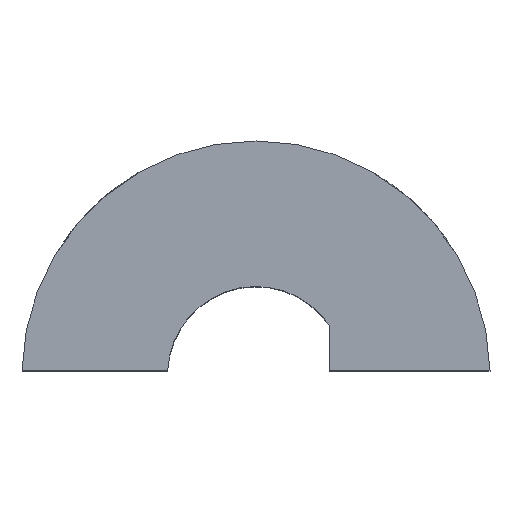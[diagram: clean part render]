
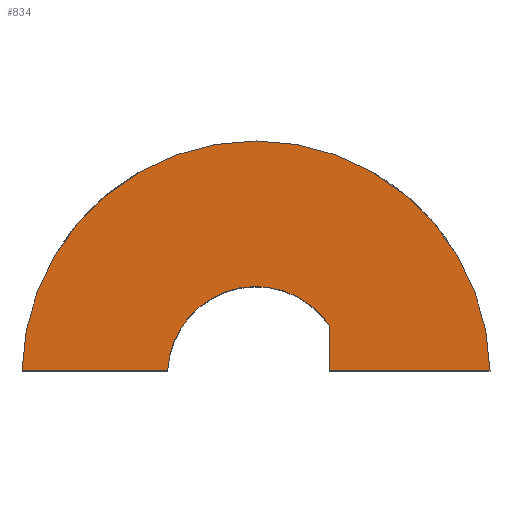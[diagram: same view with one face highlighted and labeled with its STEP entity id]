
A CAD part, top view. The second image highlights one B-rep face of the part: STEP entity #834.
In plain terms, the highlighted planar face has unit normal (0, 0, 1).
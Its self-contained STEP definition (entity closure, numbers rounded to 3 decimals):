
#21 = EDGE_CURVE('',#22,#24,#26,.T.);
#22 = VERTEX_POINT('',#23);
#23 = CARTESIAN_POINT('',(7.999,0.15,-26.));
#24 = VERTEX_POINT('',#25);
#25 = CARTESIAN_POINT('',(-7.999,0.15,-26.));
#26 = SURFACE_CURVE('',#27,(#32,#44),.PCURVE_S1.);
#27 = CIRCLE('',#28,8.);
#28 = AXIS2_PLACEMENT_3D('',#29,#30,#31);
#29 = CARTESIAN_POINT('',(0.,0.,-26.));
#30 = DIRECTION('',(0.,0.,1.));
#31 = DIRECTION('',(1.,0.,-0.));
#32 = PCURVE('',#33,#38);
#33 = CYLINDRICAL_SURFACE('',#34,8.);
#34 = AXIS2_PLACEMENT_3D('',#35,#36,#37);
#35 = CARTESIAN_POINT('',(0.,0.,-34.));
#36 = DIRECTION('',(0.,0.,1.));
#37 = DIRECTION('',(1.,0.,-0.));
#38 = DEFINITIONAL_REPRESENTATION('',(#39),#43);
#39 = LINE('',#40,#41);
#40 = CARTESIAN_POINT('',(0.,8.));
#41 = VECTOR('',#42,1.);
#42 = DIRECTION('',(1.,0.));
#43 = ( GEOMETRIC_REPRESENTATION_CONTEXT(2) 
PARAMETRIC_REPRESENTATION_CONTEXT() REPRESENTATION_CONTEXT('2D SPACE',''
  ) );
#44 = PCURVE('',#45,#50);
#45 = PLANE('',#46);
#46 = AXIS2_PLACEMENT_3D('',#47,#48,#49);
#47 = CARTESIAN_POINT('',(0.,0.,-26.));
#48 = DIRECTION('',(0.,0.,1.));
#49 = DIRECTION('',(1.,0.,-0.));
#50 = DEFINITIONAL_REPRESENTATION('',(#51),#55);
#51 = CIRCLE('',#52,8.);
#52 = AXIS2_PLACEMENT_2D('',#53,#54);
#53 = CARTESIAN_POINT('',(0.,0.));
#54 = DIRECTION('',(1.,0.));
#55 = ( GEOMETRIC_REPRESENTATION_CONTEXT(2) 
PARAMETRIC_REPRESENTATION_CONTEXT() REPRESENTATION_CONTEXT('2D SPACE',''
  ) );
#72 = PLANE('',#73);
#73 = AXIS2_PLACEMENT_3D('',#74,#75,#76);
#74 = CARTESIAN_POINT('',(-15.,0.15,-36.));
#75 = DIRECTION('',(0.,1.,0.));
#76 = DIRECTION('',(0.,0.,1.));
#125 = PLANE('',#126);
#126 = AXIS2_PLACEMENT_3D('',#127,#128,#129);
#127 = CARTESIAN_POINT('',(-15.,0.15,-36.));
#128 = DIRECTION('',(0.,1.,0.));
#129 = DIRECTION('',(0.,0.,1.));
#834 = ADVANCED_FACE('',(#835),#45,.T.);
#835 = FACE_BOUND('',#836,.T.);
#836 = EDGE_LOOP('',(#837,#858,#859,#880,#909));
#837 = ORIENTED_EDGE('',*,*,#838,.F.);
#838 = EDGE_CURVE('',#22,#839,#841,.T.);
#839 = VERTEX_POINT('',#840);
#840 = CARTESIAN_POINT('',(2.525,0.15,-26.));
#841 = SURFACE_CURVE('',#842,(#846,#852),.PCURVE_S1.);
#842 = LINE('',#843,#844);
#843 = CARTESIAN_POINT('',(-7.5,0.15,-26.));
#844 = VECTOR('',#845,1.);
#845 = DIRECTION('',(-1.,0.,0.));
#846 = PCURVE('',#45,#847);
#847 = DEFINITIONAL_REPRESENTATION('',(#848),#851);
#848 = B_SPLINE_CURVE_WITH_KNOTS('',1,(#849,#850),.UNSPECIFIED.,.F.,.F.,
  (2,2),(-15.5,0.5),.PIECEWISE_BEZIER_KNOTS.);
#849 = CARTESIAN_POINT('',(8.,0.15));
#850 = CARTESIAN_POINT('',(-8.,0.15));
#851 = ( GEOMETRIC_REPRESENTATION_CONTEXT(2) 
PARAMETRIC_REPRESENTATION_CONTEXT() REPRESENTATION_CONTEXT('2D SPACE',''
  ) );
#852 = PCURVE('',#72,#853);
#853 = DEFINITIONAL_REPRESENTATION('',(#854),#857);
#854 = B_SPLINE_CURVE_WITH_KNOTS('',1,(#855,#856),.UNSPECIFIED.,.F.,.F.,
  (2,2),(-15.5,0.5),.PIECEWISE_BEZIER_KNOTS.);
#855 = CARTESIAN_POINT('',(10.,23.));
#856 = CARTESIAN_POINT('',(10.,7.));
#857 = ( GEOMETRIC_REPRESENTATION_CONTEXT(2) 
PARAMETRIC_REPRESENTATION_CONTEXT() REPRESENTATION_CONTEXT('2D SPACE',''
  ) );
#858 = ORIENTED_EDGE('',*,*,#21,.T.);
#859 = ORIENTED_EDGE('',*,*,#860,.F.);
#860 = EDGE_CURVE('',#861,#24,#863,.T.);
#861 = VERTEX_POINT('',#862);
#862 = CARTESIAN_POINT('',(-3.021,0.15,-26.));
#863 = SURFACE_CURVE('',#864,(#868,#874),.PCURVE_S1.);
#864 = LINE('',#865,#866);
#865 = CARTESIAN_POINT('',(-7.5,0.15,-26.));
#866 = VECTOR('',#867,1.);
#867 = DIRECTION('',(-1.,0.,0.));
#868 = PCURVE('',#45,#869);
#869 = DEFINITIONAL_REPRESENTATION('',(#870),#873);
#870 = B_SPLINE_CURVE_WITH_KNOTS('',1,(#871,#872),.UNSPECIFIED.,.F.,.F.,
  (2,2),(-15.5,0.5),.PIECEWISE_BEZIER_KNOTS.);
#871 = CARTESIAN_POINT('',(8.,0.15));
#872 = CARTESIAN_POINT('',(-8.,0.15));
#873 = ( GEOMETRIC_REPRESENTATION_CONTEXT(2) 
PARAMETRIC_REPRESENTATION_CONTEXT() REPRESENTATION_CONTEXT('2D SPACE',''
  ) );
#874 = PCURVE('',#125,#875);
#875 = DEFINITIONAL_REPRESENTATION('',(#876),#879);
#876 = B_SPLINE_CURVE_WITH_KNOTS('',1,(#877,#878),.UNSPECIFIED.,.F.,.F.,
  (2,2),(-15.5,0.5),.PIECEWISE_BEZIER_KNOTS.);
#877 = CARTESIAN_POINT('',(10.,23.));
#878 = CARTESIAN_POINT('',(10.,7.));
#879 = ( GEOMETRIC_REPRESENTATION_CONTEXT(2) 
PARAMETRIC_REPRESENTATION_CONTEXT() REPRESENTATION_CONTEXT('2D SPACE',''
  ) );
#880 = ORIENTED_EDGE('',*,*,#881,.F.);
#881 = EDGE_CURVE('',#882,#861,#884,.T.);
#882 = VERTEX_POINT('',#883);
#883 = CARTESIAN_POINT('',(2.525,1.666,-26.));
#884 = SURFACE_CURVE('',#885,(#890,#897),.PCURVE_S1.);
#885 = CIRCLE('',#886,3.025);
#886 = AXIS2_PLACEMENT_3D('',#887,#888,#889);
#887 = CARTESIAN_POINT('',(0.,0.,-26.));
#888 = DIRECTION('',(0.,0.,1.));
#889 = DIRECTION('',(1.,0.,-0.));
#890 = PCURVE('',#45,#891);
#891 = DEFINITIONAL_REPRESENTATION('',(#892),#896);
#892 = CIRCLE('',#893,3.025);
#893 = AXIS2_PLACEMENT_2D('',#894,#895);
#894 = CARTESIAN_POINT('',(0.,0.));
#895 = DIRECTION('',(1.,0.));
#896 = ( GEOMETRIC_REPRESENTATION_CONTEXT(2) 
PARAMETRIC_REPRESENTATION_CONTEXT() REPRESENTATION_CONTEXT('2D SPACE',''
  ) );
#897 = PCURVE('',#898,#903);
#898 = CYLINDRICAL_SURFACE('',#899,3.025);
#899 = AXIS2_PLACEMENT_3D('',#900,#901,#902);
#900 = CARTESIAN_POINT('',(0.,0.,-34.1));
#901 = DIRECTION('',(0.,0.,1.));
#902 = DIRECTION('',(1.,0.,-0.));
#903 = DEFINITIONAL_REPRESENTATION('',(#904),#908);
#904 = LINE('',#905,#906);
#905 = CARTESIAN_POINT('',(0.,8.1));
#906 = VECTOR('',#907,1.);
#907 = DIRECTION('',(1.,0.));
#908 = ( GEOMETRIC_REPRESENTATION_CONTEXT(2) 
PARAMETRIC_REPRESENTATION_CONTEXT() REPRESENTATION_CONTEXT('2D SPACE',''
  ) );
#909 = ORIENTED_EDGE('',*,*,#910,.F.);
#910 = EDGE_CURVE('',#839,#882,#911,.T.);
#911 = SURFACE_CURVE('',#912,(#916,#922),.PCURVE_S1.);
#912 = LINE('',#913,#914);
#913 = CARTESIAN_POINT('',(2.525,-2.,-26.));
#914 = VECTOR('',#915,1.);
#915 = DIRECTION('',(0.,1.,0.));
#916 = PCURVE('',#45,#917);
#917 = DEFINITIONAL_REPRESENTATION('',(#918),#921);
#918 = B_SPLINE_CURVE_WITH_KNOTS('',1,(#919,#920),.UNSPECIFIED.,.F.,.F.,
  (2,2),(0.334,3.666),.PIECEWISE_BEZIER_KNOTS.);
#919 = CARTESIAN_POINT('',(2.525,-1.666));
#920 = CARTESIAN_POINT('',(2.525,1.666));
#921 = ( GEOMETRIC_REPRESENTATION_CONTEXT(2) 
PARAMETRIC_REPRESENTATION_CONTEXT() REPRESENTATION_CONTEXT('2D SPACE',''
  ) );
#922 = PCURVE('',#923,#928);
#923 = PLANE('',#924);
#924 = AXIS2_PLACEMENT_3D('',#925,#926,#927);
#925 = CARTESIAN_POINT('',(2.525,-4.,-35.));
#926 = DIRECTION('',(1.,0.,0.));
#927 = DIRECTION('',(0.,0.,1.));
#928 = DEFINITIONAL_REPRESENTATION('',(#929),#932);
#929 = B_SPLINE_CURVE_WITH_KNOTS('',1,(#930,#931),.UNSPECIFIED.,.F.,.F.,
  (2,2),(0.334,3.666),.PIECEWISE_BEZIER_KNOTS.);
#930 = CARTESIAN_POINT('',(9.,-2.334));
#931 = CARTESIAN_POINT('',(9.,-5.666));
#932 = ( GEOMETRIC_REPRESENTATION_CONTEXT(2) 
PARAMETRIC_REPRESENTATION_CONTEXT() REPRESENTATION_CONTEXT('2D SPACE',''
  ) );
